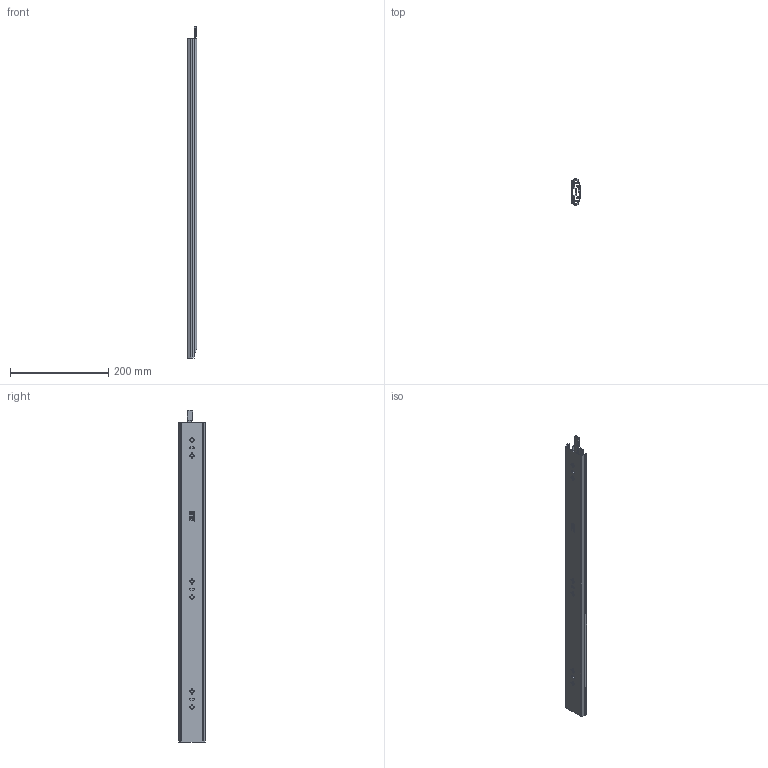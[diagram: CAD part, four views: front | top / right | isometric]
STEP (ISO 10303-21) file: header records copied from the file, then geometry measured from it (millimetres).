
FILE_DESCRIPTION (( 'STEP AP214' ), '1' );
FILE_NAME ('DSCHMD650MML-CLOSED.STEP', '2018-11-27T07:57:10', ( '' ), ( '' ), 'SwSTEP 2.0', 'SolidWorks 2017', '' );
FILE_SCHEMA (( 'AUTOMOTIVE_DESIGN' ));
Length unit declared in the file: millimetre
Products named in the file (5): DSCHMD650MML-CLOSED; DSCHMDL-3_650; DSCHMDL-2_650; DSCHMDL-1_650; DSCHMDL-4
Assembly tree (4 placements, depth 2):
  DSCHMD650MML-CLOSED
    DSCHMDL-3_650
    DSCHMDL-2_650
    DSCHMDL-1_650
    DSCHMDL-4
Bounding box: 18.7 x 53 x 676.1 mm (x, y, z)
Volume: 218512.1 mm3; surface area: 228388.3 mm2
Topology: 4 solids, 4 shells, 1040 faces, 2882 edges, 1912 vertices
Faces by surface type: plane 558, bspline 237, cylinder 185, cone 52, torus 4, sphere 4
Entity records: 35294 total; most frequent: CARTESIAN_POINT 9578, ORIENTED_EDGE 5756, DIRECTION 4348, EDGE_CURVE 2878, VERTEX_POINT 1912, LINE 1872, VECTOR 1872, AXIS2_PLACEMENT_3D 1238
